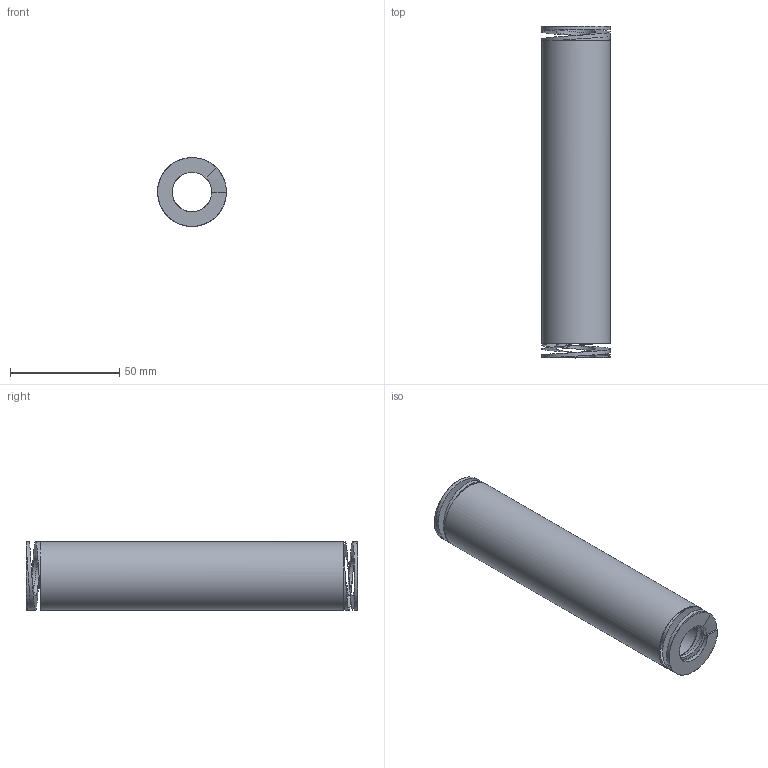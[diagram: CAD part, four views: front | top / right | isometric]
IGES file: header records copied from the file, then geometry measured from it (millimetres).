
Global section: file name: 1S32151; native system: Autodesk Inventor 2026; preprocessor: unknown; author: J. Iwanek; date: 20261007.111934; units: millimetre
Bounding box: 31.51 x 152 x 31.5 mm (x, y, z)
Volume: 76695.3 mm3; surface area: 26587.9 mm2
Topology: 1 solids, 1 shells, 22 faces, 74 edges, 46 vertices
Faces by surface type: bspline 22
